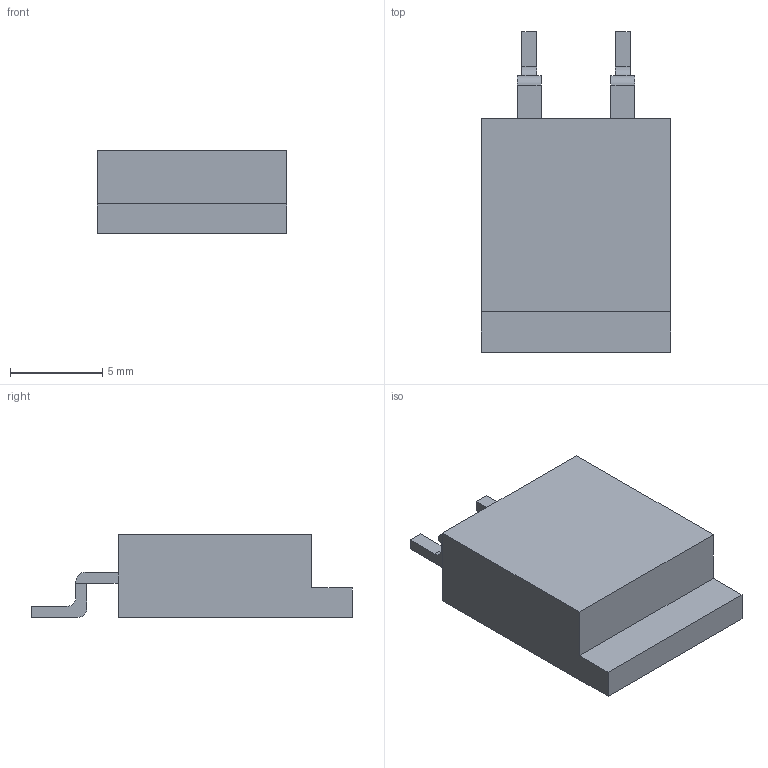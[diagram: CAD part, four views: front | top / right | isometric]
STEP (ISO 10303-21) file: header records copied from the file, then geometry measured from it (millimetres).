
FILE_DESCRIPTION(('STEP AP203'), '1');
FILE_NAME('Ð2-108Á_1', '', ('UNSPECIFIED'), ('UNSPECIFIED'), 'ASCON STEP Converter 1.6', 'ASCON Math Kernel', '');
FILE_SCHEMA(('CONFIG_CONTROL_DESIGN'));
Length unit declared in the file: millimetre
Bounding box: 10.28 x 17.4 x 4.5 mm (x, y, z)
Volume: 529.4 mm3; surface area: 495 mm2
Topology: 1 solids, 1 shells, 56 faces, 148 edges, 96 vertices
Faces by surface type: plane 48, cylinder 8
Entity records: 2200 total; most frequent: CARTESIAN_POINT 301, ORIENTED_EDGE 296, DIRECTION 282, EDGE_CURVE 148, LINE 128, VECTOR 128, VERTEX_POINT 96, AXIS2_PLACEMENT_3D 77
